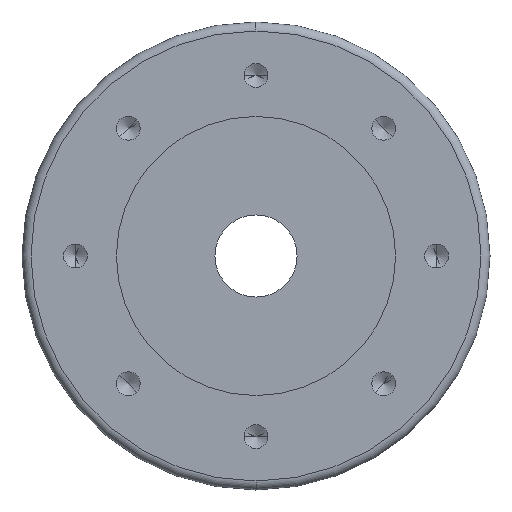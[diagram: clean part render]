
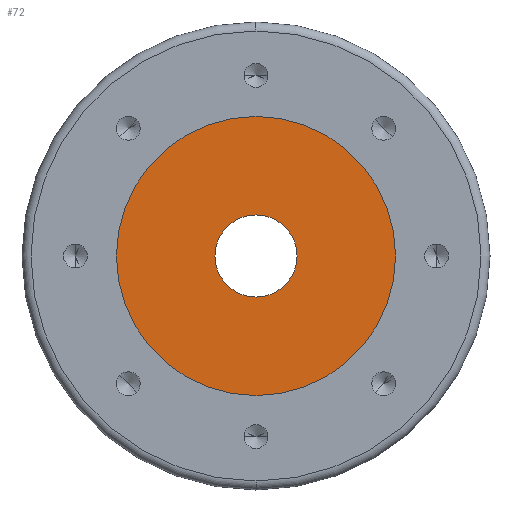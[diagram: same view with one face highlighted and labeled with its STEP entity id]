
A CAD part, left-side view. The second image highlights one B-rep face of the part: STEP entity #72.
In plain terms, the highlighted planar face has unit normal (-1, 0, 0).
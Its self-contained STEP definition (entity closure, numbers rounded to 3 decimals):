
#71 = EDGE_CURVE ( 'NONE', #280, #276, #1096, .T. ) ;
#72 = ADVANCED_FACE ( 'NONE', ( #1087, #1086 ), #1085, .F. ) ;
#73 = EDGE_LOOP ( 'NONE', ( #74, #75 ) ) ;
#74 = ORIENTED_EDGE ( 'NONE', *, *, #71, .F. ) ;
#75 = ORIENTED_EDGE ( 'NONE', *, *, #279, .F. ) ;
#76 = EDGE_LOOP ( 'NONE', ( #77, #78 ) ) ;
#77 = ORIENTED_EDGE ( 'NONE', *, *, #235, .T. ) ;
#78 = ORIENTED_EDGE ( 'NONE', *, *, #103, .T. ) ;
#103 = EDGE_CURVE ( 'NONE', #226, #227, #974, .T. ) ;
#226 = VERTEX_POINT ( 'NONE', #1317 ) ;
#227 = VERTEX_POINT ( 'NONE', #1316 ) ;
#235 = EDGE_CURVE ( 'NONE', #227, #226, #1375, .T. ) ;
#276 = VERTEX_POINT ( 'NONE', #1533 ) ;
#279 = EDGE_CURVE ( 'NONE', #276, #280, #1528, .T. ) ;
#280 = VERTEX_POINT ( 'NONE', #1523 ) ;
#971 = DIRECTION ( 'NONE',  ( 0., 0., 1. ) ) ;
#972 = DIRECTION ( 'NONE',  ( -1., 0., 0. ) ) ;
#973 = AXIS2_PLACEMENT_3D ( 'NONE', #979, #972, #971 ) ;
#974 = CIRCLE ( 'NONE', #973, 85. ) ;
#979 = CARTESIAN_POINT ( 'NONE',  ( 22., 0., 0. ) ) ;
#1081 = DIRECTION ( 'NONE',  ( 0., 0., -1. ) ) ;
#1082 = DIRECTION ( 'NONE',  ( 1., 0., 0. ) ) ;
#1083 = CARTESIAN_POINT ( 'NONE',  ( 22., 85., 0. ) ) ;
#1084 = AXIS2_PLACEMENT_3D ( 'NONE', #1083, #1082, #1081 ) ;
#1085 = PLANE ( 'NONE',  #1084 ) ;
#1086 = FACE_OUTER_BOUND ( 'NONE', #76, .T. ) ;
#1087 = FACE_BOUND ( 'NONE', #73, .T. ) ;
#1088 = DIRECTION ( 'NONE',  ( 0., 0., 1. ) ) ;
#1089 = DIRECTION ( 'NONE',  ( -1., 0., 0. ) ) ;
#1090 = CARTESIAN_POINT ( 'NONE',  ( 22., 0., 0. ) ) ;
#1091 = AXIS2_PLACEMENT_3D ( 'NONE', #1090, #1089, #1088 ) ;
#1096 = CIRCLE ( 'NONE', #1091, 25. ) ;
#1316 = CARTESIAN_POINT ( 'NONE',  ( 22., 0., 85. ) ) ;
#1317 = CARTESIAN_POINT ( 'NONE',  ( 22., 0., -85. ) ) ;
#1371 = DIRECTION ( 'NONE',  ( 0., 0., 1. ) ) ;
#1372 = DIRECTION ( 'NONE',  ( -1., 0., 0. ) ) ;
#1373 = CARTESIAN_POINT ( 'NONE',  ( 22., 0., 0. ) ) ;
#1374 = AXIS2_PLACEMENT_3D ( 'NONE', #1373, #1372, #1371 ) ;
#1375 = CIRCLE ( 'NONE', #1374, 85. ) ;
#1523 = CARTESIAN_POINT ( 'NONE',  ( 22., 0., 25. ) ) ;
#1524 = DIRECTION ( 'NONE',  ( 0., 0., 1. ) ) ;
#1525 = DIRECTION ( 'NONE',  ( -1., 0., 0. ) ) ;
#1526 = CARTESIAN_POINT ( 'NONE',  ( 22., 0., 0. ) ) ;
#1527 = AXIS2_PLACEMENT_3D ( 'NONE', #1526, #1525, #1524 ) ;
#1528 = CIRCLE ( 'NONE', #1527, 25. ) ;
#1533 = CARTESIAN_POINT ( 'NONE',  ( 22., 0., -25. ) ) ;
